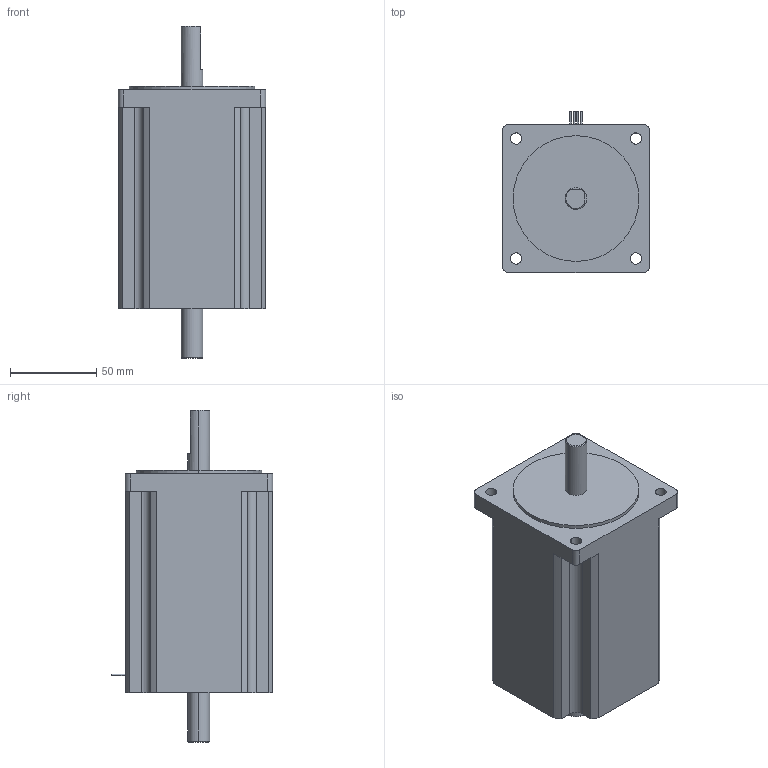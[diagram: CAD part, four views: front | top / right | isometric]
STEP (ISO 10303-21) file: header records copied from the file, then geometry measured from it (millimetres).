
FILE_DESCRIPTION((''),'2;1');
FILE_NAME('C:\Documents and Settings\rbadgerow\Desktop\webmodelmain\web step 3d\8718l\8718l d.stp','2005-05-24T07:28:56',('rbadgerow'),(''),'Autodesk Inventor 9','Autodesk Inventor 9','');
FILE_SCHEMA(('AUTOMOTIVE_DESIGN { 1 0 10303 214 1 1 1 1 }'));
Length unit declared in the file: inch
Products named in the file (1): 8718l d
Bounding box: 85.6 x 93.6 x 192.79 mm (x, y, z)
Volume: 845815.3 mm3; surface area: 59286.2 mm2
Topology: 1 solids, 2 shells, 76 faces, 194 edges, 129 vertices
Faces by surface type: cylinder 40, plane 31, cone 5
Entity records: 2376 total; most frequent: DIRECTION 435, CARTESIAN_POINT 408, ORIENTED_EDGE 388, EDGE_CURVE 194, AXIS2_PLACEMENT_3D 168, VERTEX_POINT 129, VECTOR 99, LINE 99
